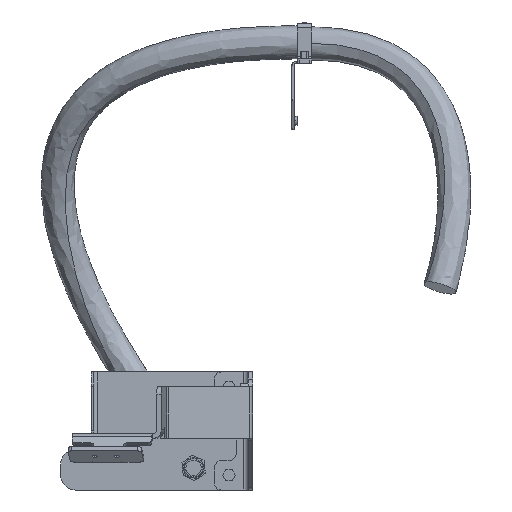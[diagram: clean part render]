
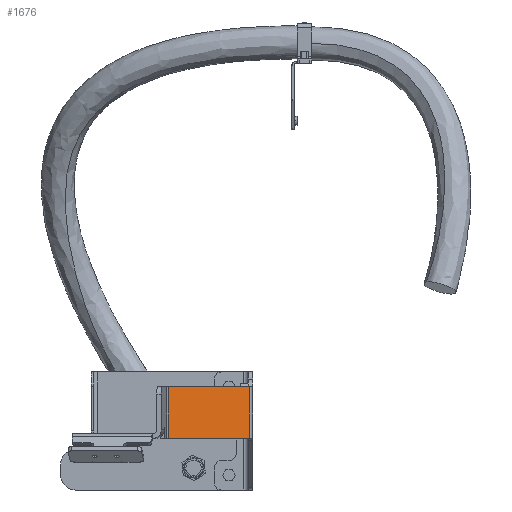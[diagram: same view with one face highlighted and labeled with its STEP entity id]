
A CAD part, left-side view. The second image highlights one B-rep face of the part: STEP entity #1676.
In plain terms, the highlighted planar face has unit normal (-0.766, -0.643, 0).
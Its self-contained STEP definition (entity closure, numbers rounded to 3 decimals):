
#128 = DIRECTION ( 'NONE',  ( 0., 0., 1. ) ) ;
#277 = LINE ( 'NONE', #12580, #1683 ) ;
#355 = CARTESIAN_POINT ( 'NONE',  ( 50.879, 45.642, 1438. ) ) ;
#643 = LINE ( 'NONE', #6960, #6639 ) ;
#1148 = DIRECTION ( 'NONE',  ( -0.643, 0.766, 0. ) ) ;
#1399 = DIRECTION ( 'NONE',  ( 0.643, -0.766, 0. ) ) ;
#1604 = EDGE_CURVE ( 'NONE', #3846, #6168, #5274, .T. ) ;
#1676 = ADVANCED_FACE ( 'NONE', ( #7272 ), #11398, .T. ) ;
#1683 = VECTOR ( 'NONE', #1148, 1000. ) ;
#2185 = VECTOR ( 'NONE', #1399, 1000. ) ;
#3014 = VERTEX_POINT ( 'NONE', #3113 ) ;
#3113 = CARTESIAN_POINT ( 'NONE',  ( 143.394, -64.613, 1508. ) ) ;
#3673 = EDGE_CURVE ( 'NONE', #3014, #5382, #643, .T. ) ;
#3688 = DIRECTION ( 'NONE',  ( 0., 0., -1. ) ) ;
#3846 = VERTEX_POINT ( 'NONE', #355 ) ;
#4530 = CARTESIAN_POINT ( 'NONE',  ( 177.839, -105.663, 1438. ) ) ;
#4666 = EDGE_CURVE ( 'NONE', #3014, #6168, #277, .T. ) ;
#5274 = LINE ( 'NONE', #11673, #12834 ) ;
#5382 = VERTEX_POINT ( 'NONE', #12017 ) ;
#5543 = ORIENTED_EDGE ( 'NONE', *, *, #4666, .T. ) ;
#5800 = DIRECTION ( 'NONE',  ( 0.643, -0.766, 0. ) ) ;
#6168 = VERTEX_POINT ( 'NONE', #8779 ) ;
#6563 = LINE ( 'NONE', #4530, #2185 ) ;
#6639 = VECTOR ( 'NONE', #3688, 1000. ) ;
#6899 = EDGE_CURVE ( 'NONE', #3846, #5382, #6563, .T. ) ;
#6960 = CARTESIAN_POINT ( 'NONE',  ( 143.394, -64.613, 1528. ) ) ;
#7272 = FACE_OUTER_BOUND ( 'NONE', #12749, .T. ) ;
#8779 = CARTESIAN_POINT ( 'NONE',  ( 50.879, 45.642, 1508. ) ) ;
#9386 = ORIENTED_EDGE ( 'NONE', *, *, #1604, .F. ) ;
#9425 = ORIENTED_EDGE ( 'NONE', *, *, #3673, .F. ) ;
#10705 = DIRECTION ( 'NONE',  ( -0.766, -0.643, 0. ) ) ;
#11302 = AXIS2_PLACEMENT_3D ( 'NONE', #11955, #10705, #5800 ) ;
#11398 = PLANE ( 'NONE',  #11302 ) ;
#11673 = CARTESIAN_POINT ( 'NONE',  ( 50.879, 45.642, 1438. ) ) ;
#11955 = CARTESIAN_POINT ( 'NONE',  ( 177.839, -105.663, 1528. ) ) ;
#12017 = CARTESIAN_POINT ( 'NONE',  ( 143.394, -64.613, 1438. ) ) ;
#12580 = CARTESIAN_POINT ( 'NONE',  ( 177.839, -105.663, 1508. ) ) ;
#12749 = EDGE_LOOP ( 'NONE', ( #5543, #9386, #13223, #9425 ) ) ;
#12834 = VECTOR ( 'NONE', #128, 1000. ) ;
#13223 = ORIENTED_EDGE ( 'NONE', *, *, #6899, .T. ) ;
